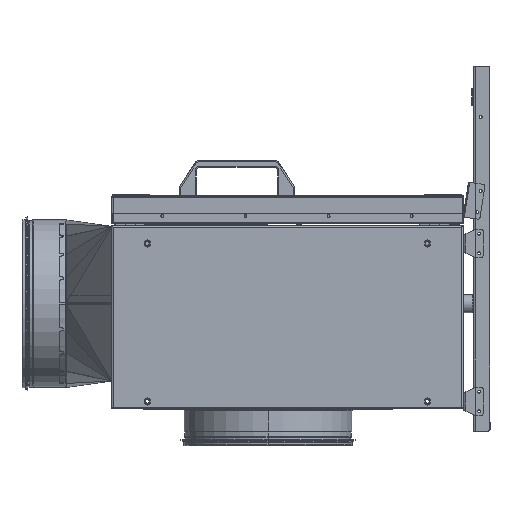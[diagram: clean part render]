
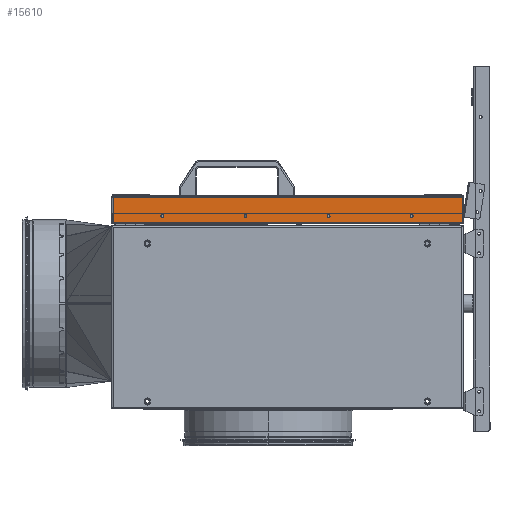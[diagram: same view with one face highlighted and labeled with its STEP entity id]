
A CAD part, left-side view. The second image highlights one B-rep face of the part: STEP entity #15610.
In plain terms, the highlighted planar face has unit normal (-1, 0, 0).
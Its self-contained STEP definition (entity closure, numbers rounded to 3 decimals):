
#3704 = CARTESIAN_POINT ( 'NONE',  ( -296.03, -60.96, 285.4 ) ) ;
#3705 = DIRECTION ( 'NONE',  ( 1., 0., 0. ) ) ;
#3706 = DIRECTION ( 'NONE',  ( 0., 0., -1. ) ) ;
#3714 = CARTESIAN_POINT ( 'NONE',  ( -296.03, -183.96, 285.4 ) ) ;
#3715 = DIRECTION ( 'NONE',  ( 1., 0., 0. ) ) ;
#3716 = DIRECTION ( 'NONE',  ( 0., 0., -1. ) ) ;
#4608 = DIRECTION ( 'NONE',  ( 1., 0., 0. ) ) ;
#4610 = CARTESIAN_POINT ( 'NONE',  ( -296.03, 259.24, 314.6 ) ) ;
#4615 = PLANE ( 'NONE',  #48279 ) ;
#4621 = DIRECTION ( 'NONE',  ( 0., 0., -1. ) ) ;
#13945 = AXIS2_PLACEMENT_3D ( 'NONE', #3704, #3705, #3706 ) ;
#13949 = AXIS2_PLACEMENT_3D ( 'NONE', #3714, #3715, #3716 ) ;
#13988 = AXIS2_PLACEMENT_3D ( 'NONE', #71287, #71288, #71291 ) ;
#13992 = AXIS2_PLACEMENT_3D ( 'NONE', #71307, #71310, #71313 ) ;
#14005 = AXIS2_PLACEMENT_3D ( 'NONE', #71548, #71550, #71552 ) ;
#14007 = AXIS2_PLACEMENT_3D ( 'NONE', #71554, #71555, #71557 ) ;
#14009 = AXIS2_PLACEMENT_3D ( 'NONE', #71562, #71563, #71564 ) ;
#14011 = AXIS2_PLACEMENT_3D ( 'NONE', #71568, #71570, #71572 ) ;
#15610 = ADVANCED_FACE ( 'NONE', ( #51561, #51568, #51563, #51567, #51565 ), #4615, .F. ) ;
#22554 = EDGE_LOOP ( 'NONE', ( #41803, #41946 ) ) ;
#22556 = EDGE_LOOP ( 'NONE', ( #41685, #41805 ) ) ;
#22558 = EDGE_LOOP ( 'NONE', ( #41792, #41802 ) ) ;
#22566 = EDGE_LOOP ( 'NONE', ( #41778, #41799, #41815, #41816 ) ) ;
#22605 = EDGE_LOOP ( 'NONE', ( #41851, #41939 ) ) ;
#23866 = VERTEX_POINT ( 'NONE', #40560 ) ;
#23916 = VERTEX_POINT ( 'NONE', #40638 ) ;
#30809 = EDGE_CURVE ( 'NONE', #70168, #70179, #54656, .T. ) ;
#30822 = EDGE_CURVE ( 'NONE', #42376, #70618, #54663, .T. ) ;
#31016 = EDGE_CURVE ( 'NONE', #70618, #42376, #54780, .T. ) ;
#31020 = EDGE_CURVE ( 'NONE', #70179, #70168, #54783, .T. ) ;
#31061 = EDGE_CURVE ( 'NONE', #70273, #23866, #58328, .T. ) ;
#31081 = EDGE_CURVE ( 'NONE', #46403, #70471, #58361, .T. ) ;
#31086 = EDGE_CURVE ( 'NONE', #42421, #46412, #58370, .T. ) ;
#31088 = EDGE_CURVE ( 'NONE', #46412, #42421, #58354, .T. ) ;
#31091 = EDGE_CURVE ( 'NONE', #23916, #70319, #58372, .T. ) ;
#31093 = EDGE_CURVE ( 'NONE', #70319, #23916, #58367, .T. ) ;
#31095 = EDGE_CURVE ( 'NONE', #70471, #70273, #58374, .T. ) ;
#31097 = EDGE_CURVE ( 'NONE', #46403, #23866, #58376, .T. ) ;
#35317 = CARTESIAN_POINT ( 'NONE',  ( -296.03, -183.96, 283.3 ) ) ;
#40560 = CARTESIAN_POINT ( 'NONE',  ( -296.03, -258.84, 313.4 ) ) ;
#40638 = CARTESIAN_POINT ( 'NONE',  ( -296.03, 185.04, 283.3 ) ) ;
#41685 = ORIENTED_EDGE ( 'NONE', *, *, #31086, .T. ) ;
#41778 = ORIENTED_EDGE ( 'NONE', *, *, #31081, .T. ) ;
#41792 = ORIENTED_EDGE ( 'NONE', *, *, #31091, .T. ) ;
#41799 = ORIENTED_EDGE ( 'NONE', *, *, #31095, .T. ) ;
#41802 = ORIENTED_EDGE ( 'NONE', *, *, #31093, .T. ) ;
#41803 = ORIENTED_EDGE ( 'NONE', *, *, #31020, .T. ) ;
#41805 = ORIENTED_EDGE ( 'NONE', *, *, #31088, .T. ) ;
#41815 = ORIENTED_EDGE ( 'NONE', *, *, #31061, .T. ) ;
#41816 = ORIENTED_EDGE ( 'NONE', *, *, #31097, .F. ) ;
#41851 = ORIENTED_EDGE ( 'NONE', *, *, #31016, .T. ) ;
#41939 = ORIENTED_EDGE ( 'NONE', *, *, #30822, .T. ) ;
#41946 = ORIENTED_EDGE ( 'NONE', *, *, #30809, .T. ) ;
#42376 = VERTEX_POINT ( 'NONE', #69098 ) ;
#42421 = VERTEX_POINT ( 'NONE', #69142 ) ;
#46403 = VERTEX_POINT ( 'NONE', #52991 ) ;
#46412 = VERTEX_POINT ( 'NONE', #53000 ) ;
#48279 = AXIS2_PLACEMENT_3D ( 'NONE', #4610, #4608, #4621 ) ;
#51561 = FACE_BOUND ( 'NONE', #22556, .T. ) ;
#51563 = FACE_OUTER_BOUND ( 'NONE', #22566, .T. ) ;
#51565 = FACE_BOUND ( 'NONE', #22605, .T. ) ;
#51567 = FACE_BOUND ( 'NONE', #22554, .T. ) ;
#51568 = FACE_BOUND ( 'NONE', #22558, .T. ) ;
#52991 = CARTESIAN_POINT ( 'NONE',  ( -296.03, 258.04, 313.4 ) ) ;
#53000 = CARTESIAN_POINT ( 'NONE',  ( -296.03, 62.04, 287.5 ) ) ;
#54656 = CIRCLE ( 'NONE', #13945, 2.1 ) ;
#54663 = CIRCLE ( 'NONE', #13949, 2.1 ) ;
#54780 = CIRCLE ( 'NONE', #13988, 2.1 ) ;
#54783 = CIRCLE ( 'NONE', #13992, 2.1 ) ;
#58328 = LINE ( 'NONE', #71406, #58333 ) ;
#58333 = VECTOR ( 'NONE', #71411, 1000. ) ;
#58354 = CIRCLE ( 'NONE', #14007, 2.1 ) ;
#58361 = LINE ( 'NONE', #71509, #58365 ) ;
#58365 = VECTOR ( 'NONE', #71512, 1000. ) ;
#58367 = CIRCLE ( 'NONE', #14011, 2.1 ) ;
#58370 = CIRCLE ( 'NONE', #14005, 2.1 ) ;
#58372 = CIRCLE ( 'NONE', #14009, 2.1 ) ;
#58374 = LINE ( 'NONE', #71543, #58378 ) ;
#58376 = LINE ( 'NONE', #71574, #58382 ) ;
#58378 = VECTOR ( 'NONE', #71559, 1000. ) ;
#58382 = VECTOR ( 'NONE', #71576, 1000. ) ;
#69098 = CARTESIAN_POINT ( 'NONE',  ( -296.03, -183.96, 287.5 ) ) ;
#69142 = CARTESIAN_POINT ( 'NONE',  ( -296.03, 62.04, 283.3 ) ) ;
#70168 = VERTEX_POINT ( 'NONE', #79834 ) ;
#70179 = VERTEX_POINT ( 'NONE', #79855 ) ;
#70273 = VERTEX_POINT ( 'NONE', #80027 ) ;
#70319 = VERTEX_POINT ( 'NONE', #80077 ) ;
#70471 = VERTEX_POINT ( 'NONE', #80202 ) ;
#70618 = VERTEX_POINT ( 'NONE', #35317 ) ;
#71287 = CARTESIAN_POINT ( 'NONE',  ( -296.03, -183.96, 285.4 ) ) ;
#71288 = DIRECTION ( 'NONE',  ( 1., 0., 0. ) ) ;
#71291 = DIRECTION ( 'NONE',  ( 0., 0., -1. ) ) ;
#71307 = CARTESIAN_POINT ( 'NONE',  ( -296.03, -60.96, 285.4 ) ) ;
#71310 = DIRECTION ( 'NONE',  ( 1., 0., 0. ) ) ;
#71313 = DIRECTION ( 'NONE',  ( 0., 0., -1. ) ) ;
#71406 = CARTESIAN_POINT ( 'NONE',  ( -296.03, -258.84, 274.9 ) ) ;
#71411 = DIRECTION ( 'NONE',  ( 0., 0., 1. ) ) ;
#71509 = CARTESIAN_POINT ( 'NONE',  ( -296.03, 258.04, 313.4 ) ) ;
#71512 = DIRECTION ( 'NONE',  ( 0., 0., -1. ) ) ;
#71543 = CARTESIAN_POINT ( 'NONE',  ( -296.03, -260.04, 274.9 ) ) ;
#71548 = CARTESIAN_POINT ( 'NONE',  ( -296.03, 62.04, 285.4 ) ) ;
#71550 = DIRECTION ( 'NONE',  ( 1., 0., 0. ) ) ;
#71552 = DIRECTION ( 'NONE',  ( 0., 0., -1. ) ) ;
#71554 = CARTESIAN_POINT ( 'NONE',  ( -296.03, 62.04, 285.4 ) ) ;
#71555 = DIRECTION ( 'NONE',  ( 1., 0., 0. ) ) ;
#71557 = DIRECTION ( 'NONE',  ( 0., 0., -1. ) ) ;
#71559 = DIRECTION ( 'NONE',  ( 0., -1., 0. ) ) ;
#71562 = CARTESIAN_POINT ( 'NONE',  ( -296.03, 185.04, 285.4 ) ) ;
#71563 = DIRECTION ( 'NONE',  ( 1., 0., 0. ) ) ;
#71564 = DIRECTION ( 'NONE',  ( 0., 0., -1. ) ) ;
#71568 = CARTESIAN_POINT ( 'NONE',  ( -296.03, 185.04, 285.4 ) ) ;
#71570 = DIRECTION ( 'NONE',  ( 1., 0., 0. ) ) ;
#71572 = DIRECTION ( 'NONE',  ( 0., 0., -1. ) ) ;
#71574 = CARTESIAN_POINT ( 'NONE',  ( -296.03, 259.24, 313.4 ) ) ;
#71576 = DIRECTION ( 'NONE',  ( 0., -1., 0. ) ) ;
#79834 = CARTESIAN_POINT ( 'NONE',  ( -296.03, -60.96, 287.5 ) ) ;
#79855 = CARTESIAN_POINT ( 'NONE',  ( -296.03, -60.96, 283.3 ) ) ;
#80027 = CARTESIAN_POINT ( 'NONE',  ( -296.03, -258.84, 274.9 ) ) ;
#80077 = CARTESIAN_POINT ( 'NONE',  ( -296.03, 185.04, 287.5 ) ) ;
#80202 = CARTESIAN_POINT ( 'NONE',  ( -296.03, 258.04, 274.9 ) ) ;
